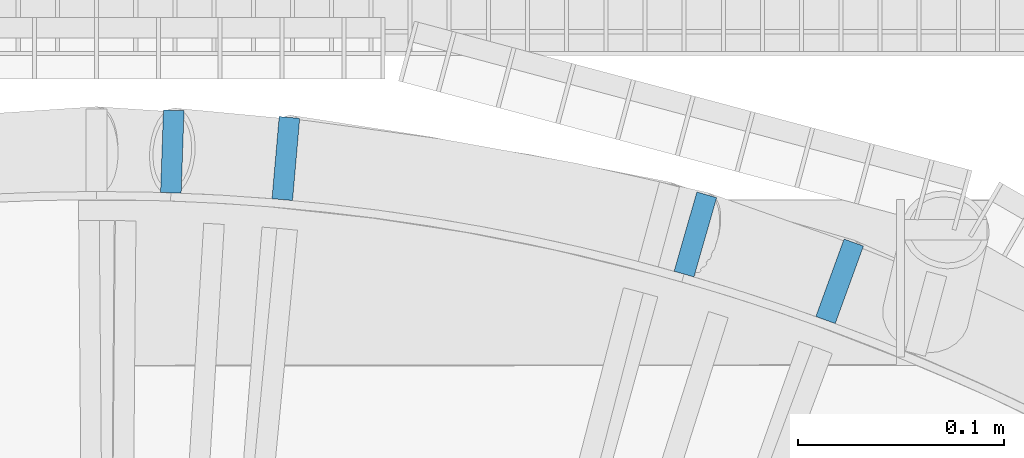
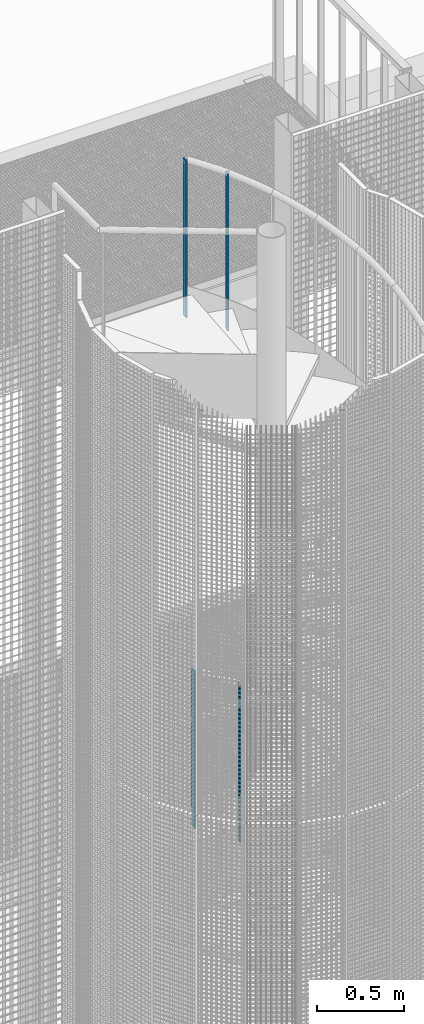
# One storey, part 24 of 1148: 4 columns, 4 elements without a shape of their own.
"""IFC2X3 building model written with IfcOpenShell, lengths in millimetres."""

from ifc_helpers import new_model, si_unit, frame, origin_with_axes, origin_2d_with_axis, place, context, subcontext, project, spatial, rectangle, extrude, material, type_object, element, aggregate, save


model = new_model("IFC2X3")

# Units and contexts
model_context = context("Model", 3, precision=1e-05, world=origin_with_axes())
body_context = subcontext(model_context, "Body", "Model", "MODEL_VIEW")
ifc_project = project(units=[si_unit("LENGTHUNIT", "METRE", prefix="MILLI"), si_unit("AREAUNIT", "SQUARE_METRE"), si_unit("VOLUMEUNIT", "CUBIC_METRE"), si_unit("MASSUNIT", "GRAM", prefix="KILO"), si_unit("TIMEUNIT", "SECOND"), si_unit("PLANEANGLEUNIT", "RADIAN"), si_unit("SOLIDANGLEUNIT", "STERADIAN"), si_unit("THERMODYNAMICTEMPERATUREUNIT", "DEGREE_CELSIUS"), si_unit("LUMINOUSINTENSITYUNIT", "LUMEN")], contexts=[model_context])

# Site, building, storey
site_placement = place(None, origin_with_axes())
site = spatial("IfcSite", under=ifc_project, at=site_placement, Name="Undefined", CompositionType="ELEMENT")
building_placement = place(site_placement, origin_with_axes())
building = spatial("IfcBuilding", under=site, at=building_placement, Name="Undefined", CompositionType="ELEMENT")
storey_placement = place(building_placement, origin_with_axes())
storey = spatial("IfcBuildingStorey", under=building, at=storey_placement, Name="Undefined", CompositionType="ELEMENT", Elevation=0.0)

# Assembly, column
assembly_1_placement = place(storey_placement, origin_with_axes())
assembly_1 = element("IfcElementAssembly", 1, at=assembly_1_placement, inside=storey, Name="MONTANT", AssemblyPlace="NOTDEFINED", PredefinedType="NOTDEFINED")
ifc_material = material(Name="STEEL/S235JR")
column_type = type_object("IfcColumnType", Name="PL10*40", PredefinedType="NOTDEFINED")
column_1_placement = place(assembly_1_placement, frame((36.7840695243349, 1053.35793167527, 17133.44), z_axis=(0.0, 0.0, 1.0), x_axis=(-0.0348994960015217, -0.999390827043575, 0.0)))
column_1 = element("IfcColumn", 2, at=column_1_placement, type_object=column_type, material=ifc_material, Name="MONTANT", context=body_context, shape_type="SweptSolid", body=[
    extrude(rectangle(XDim=10.0, YDim=40.0, at=origin_2d_with_axis()), frame((0.0, 0.0, 1100.0), z_axis=(0.0, 0.0, -1.0), x_axis=(0.0, 1.0, 0.0)), (0.0, 0.0, 1.0), 1100.0),
])
aggregate(assembly_1, [column_1])

assembly_2_placement = place(storey_placement, origin_with_axes())
assembly_2 = element("IfcElementAssembly", 3, at=assembly_2_placement, inside=storey, Name="MONTANT", AssemblyPlace="NOTDEFINED", PredefinedType="NOTDEFINED")
column_2_placement = place(assembly_2_placement, frame((290.521773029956, 1013.16982751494, 16976.92), z_axis=(0.0, 0.0, 1.0), x_axis=(-0.275637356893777, -0.961261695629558, 0.0)))
column_2 = element("IfcColumn", 4, at=column_2_placement, type_object=column_type, material=ifc_material, Name="MONTANT", context=body_context, shape_type="SweptSolid", body=[
    extrude(rectangle(XDim=10.0, YDim=40.0, at=origin_2d_with_axis()), frame((0.0, 0.0, 1100.0), z_axis=(0.0, 0.0, -1.0), x_axis=(0.0, 1.0, 0.0)), (0.0, 0.0, 1.0), 1100.0),
])
aggregate(assembly_2, [column_2])

assembly_3_placement = place(storey_placement, origin_with_axes())
assembly_3 = element("IfcElementAssembly", 5, at=assembly_3_placement, inside=storey, Name="MONTANT", AssemblyPlace="NOTDEFINED", PredefinedType="NOTDEFINED")
column_3_placement = place(assembly_3_placement, frame((91.862152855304, 1049.98921178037, 13533.44), z_axis=(0.0, 0.0, 1.0), x_axis=(-0.0871557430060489, -0.996194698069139, 0.0)))
column_3 = element("IfcColumn", 6, at=column_3_placement, type_object=column_type, material=ifc_material, Name="MONTANT", context=body_context, shape_type="SweptSolid", body=[
    extrude(rectangle(XDim=10.0, YDim=40.0, at=origin_2d_with_axis()), frame((0.0, 0.0, 1100.0), z_axis=(0.0, 0.0, -1.0), x_axis=(0.0, 1.0, 0.0)), (0.0, 0.0, 1.0), 1100.0),
])
aggregate(assembly_3, [column_3])

assembly_4_placement = place(storey_placement, origin_with_axes())
assembly_4 = element("IfcElementAssembly", 7, at=assembly_4_placement, inside=storey, Name="MONTANT", AssemblyPlace="NOTDEFINED", PredefinedType="NOTDEFINED")
column_4_placement = place(assembly_4_placement, frame((360.489231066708, 990.43602231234, 13376.92), z_axis=(0.0, 0.0, 1.0), x_axis=(-0.342020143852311, -0.939692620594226, 0.0)))
column_4 = element("IfcColumn", 8, at=column_4_placement, type_object=column_type, material=ifc_material, Name="MONTANT", context=body_context, shape_type="SweptSolid", body=[
    extrude(rectangle(XDim=10.0, YDim=40.0, at=origin_2d_with_axis()), frame((0.0, 0.0, 1100.0), z_axis=(0.0, 0.0, -1.0), x_axis=(0.0, 1.0, 0.0)), (0.0, 0.0, 1.0), 1100.0),
])
aggregate(assembly_4, [column_4])

save(model, "model.ifc")
